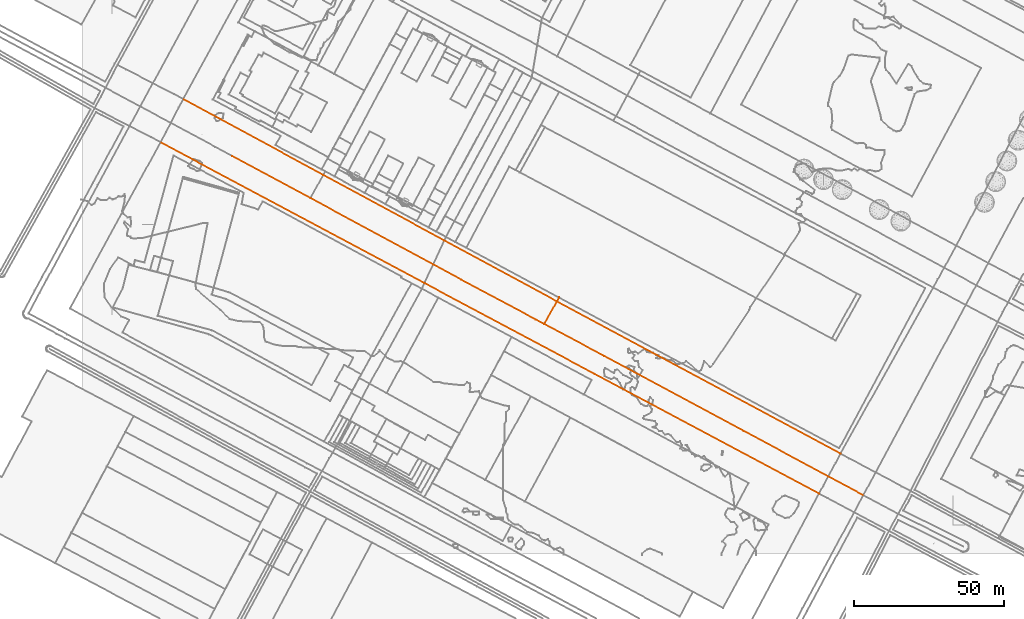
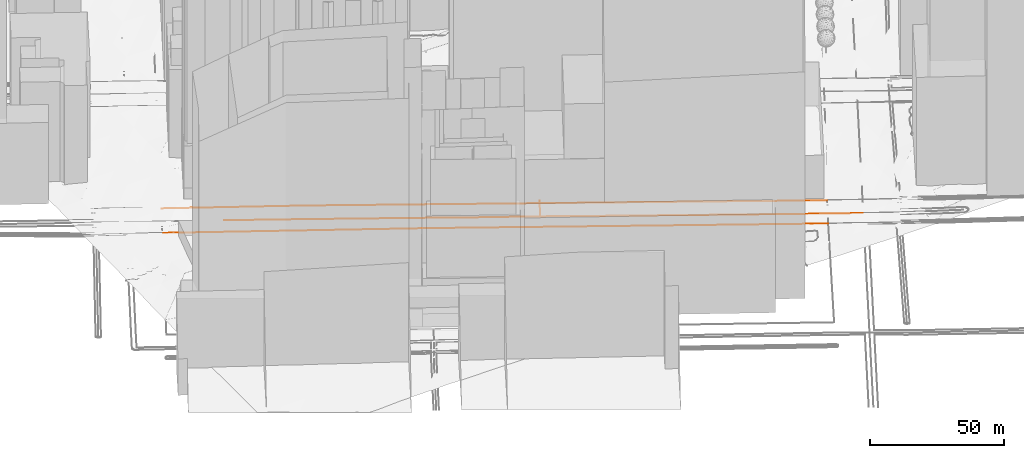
# Not in any storey, part 60 of 80: 4 civil elements.
"""IFC4 model written with IfcOpenShell, lengths in metres."""

from ifc_helpers import new_model, entity, si_unit, frame, origin_with_axes, place, context, subcontext, project, spatial, element, save


model = new_model("IFC4")

# Units and contexts
model_context = context("Model", 3, precision=1e-05, world=origin_with_axes())
body_context = subcontext(model_context, "Body", "Model", "MODEL_VIEW")
ifc_project = project(units=[si_unit("AREAUNIT", "SQUARE_METRE"), si_unit("LENGTHUNIT", "METRE")], contexts=[model_context])

# Sites
site_1_placement = place(None, origin_with_axes())
site_1 = spatial("IfcSite", under=ifc_project, at=site_1_placement, Name="Topoexport Site")
site_2_placement = place(site_1_placement, origin_with_axes())
site_2 = spatial("IfcSite", under=site_1, at=site_2_placement, Name="TPX_ROUTES")

# Civil elements
civil_element_1_placement = place(site_2_placement, frame((50.0849561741, 132.3426737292, 21.0684949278), z_axis=(0.0, 0.0, 1.0), x_axis=(1.0, 0.0, 0.0)))
element("IfcCivilElement", 1, at=civil_element_1_placement, inside=site_2, Name="Route 56", ObjectType="ROAD", context=body_context, shape_type="GeometricCurveSet", body=[
    entity("IfcGeometricCurveSet", [entity("IfcIndexedPolyCurve", entity("IfcCartesianPointList3D", [[210.0739455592, -112.9221501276, -1.8445214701], [198.3935286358, -106.6409434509, -1.7810165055], [170.190792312, -91.4813506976, -1.4998299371], [123.8264726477, -66.5629603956, -1.001116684], [103.8394068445, -55.9039517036, -0.6951989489], [101.0448111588, -54.4154193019, -0.6541933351], [76.2669456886, -41.1918783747, -0.5617740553], [66.8709137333, -36.060769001, -0.4323388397], [26.0191724, -14.0087388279, -0.1251581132], [0.0, 0.0, 0.0]]))]),
])
civil_element_2_placement = place(site_2_placement, frame((33.7329413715, 151.3153674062, 20.6846759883), z_axis=(0.0, 0.0, 1.0), x_axis=(1.0, 0.0, 0.0)))
element("IfcCivilElement", 2, at=civil_element_2_placement, inside=site_2, Name="Route 57", ObjectType="ROAD", context=body_context, shape_type="GeometricCurveSet", body=[
    entity("IfcGeometricCurveSet", [entity("IfcIndexedPolyCurve", entity("IfcCartesianPointList3D", [[0.0, 0.0, 0.0], [46.6458303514, -25.2601445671, 0.2714832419], [86.9207549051, -47.0746019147, -0.0392052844], [124.4093786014, -67.3669131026, -0.3448146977], [218.8108613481, -118.050114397, -1.355157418]]))]),
])
civil_element_3_placement = place(site_2_placement, frame((26.1761408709, 136.9057730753, 20.8976590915), z_axis=(0.0, 0.0, 1.0), x_axis=(1.0, 0.0, 0.0)))
element("IfcCivilElement", 3, at=civil_element_3_placement, inside=site_2, Name="Route 58", ObjectType="ROAD", context=body_context, shape_type="GeometricCurveSet", body=[
    entity("IfcGeometricCurveSet", [entity("IfcIndexedPolyCurve", entity("IfcCartesianPointList3D", [[0.0, 0.0, 0.0], [87.8810213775, -46.8859024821, -0.1469235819], [144.5888723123, -77.1356442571, -0.7656454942], [219.203513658, -116.946652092, -1.548332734]]))]),
])
civil_element_4_placement = place(site_2_placement, frame((153.9243630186, 76.4387220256, 20.3732959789), z_axis=(0.0, 0.0, 1.0), x_axis=(1.0, 0.0, 0.0)))
element("IfcCivilElement", 4, at=civil_element_4_placement, inside=site_2, Name="Route 62", ObjectType="ROAD", context=body_context, shape_type="GeometricCurveSet", body=[
    entity("IfcGeometricCurveSet", [entity("IfcIndexedPolyCurve", entity("IfcCartesianPointList3D", [[0.0, 0.0, 0.0], [4.2179569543, 7.5097322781, -0.0334346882], [4.9953651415, 8.8954464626, -0.028685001]]))]),
])

save(model, "model.ifc")
